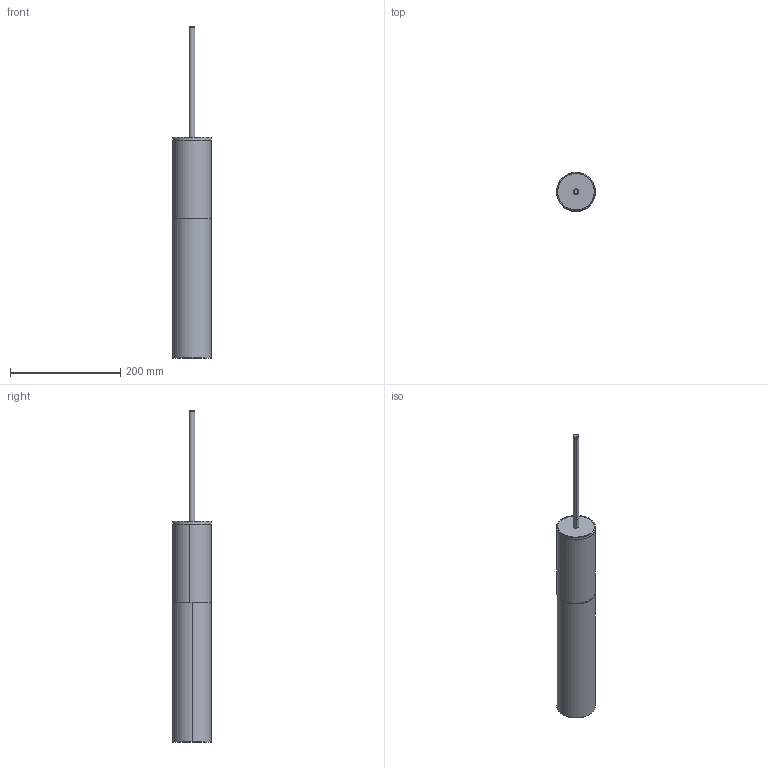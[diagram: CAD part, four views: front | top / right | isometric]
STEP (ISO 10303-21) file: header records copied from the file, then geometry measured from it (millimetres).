
FILE_DESCRIPTION (( 'STEP AP203' ), '1' );
FILE_NAME ('CWS1.STEP', '2020-12-15T14:18:32', ( '' ), ( '' ), 'SwSTEP 2.0', 'SolidWorks 2021', '' );
FILE_SCHEMA (( 'CONFIG_CONTROL_DESIGN' ));
Length unit declared in the file: millimetre
Products named in the file (12): C21.2357.00.0; C47.00.0127.06; C25.2354.00.0; C25.2285.00.0; ORING ﾘ 3,68 X 1,78; C25.2356.00.0; C25.2360.00.0; C25.2309.00.0; C21.2361.00.0; CWS1; C25.2310.00.0; C21.2358.00.0
Assembly tree (11 placements, depth 2):
  CWS1
    C21.2361.00.0
    C25.2360.00.0
    C21.2358.00.0
    C25.2354.00.0
    C25.2356.00.0
    C21.2357.00.0
    C25.2309.00.0
    C47.00.0127.06
    C25.2285.00.0
    C25.2310.00.0
    ORING ﾘ 3,68 X 1,78
Bounding box: 70.5 x 70.5 x 602 mm (x, y, z)
Volume: 1322798.3 mm3; surface area: 229049.6 mm2
Topology: 11 solids, 11 shells, 151 faces, 296 edges, 177 vertices
Faces by surface type: cylinder 64, cone 38, plane 35, torus 14
Entity records: 5166 total; most frequent: DIRECTION 808, CARTESIAN_POINT 632, ORIENTED_EDGE 580, AXIS2_PLACEMENT_3D 353, EDGE_CURVE 290, CIRCLE 188, VERTEX_POINT 177, EDGE_LOOP 177
